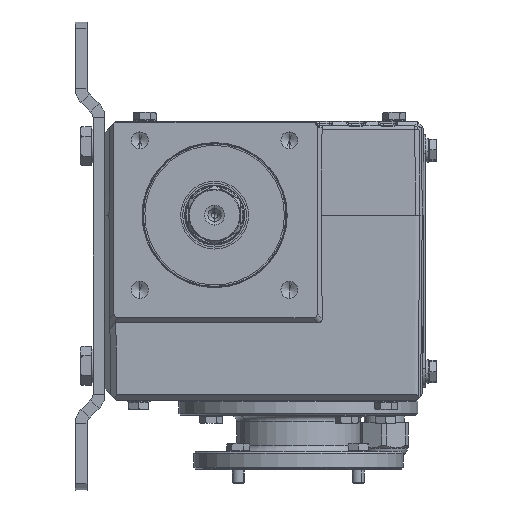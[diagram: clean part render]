
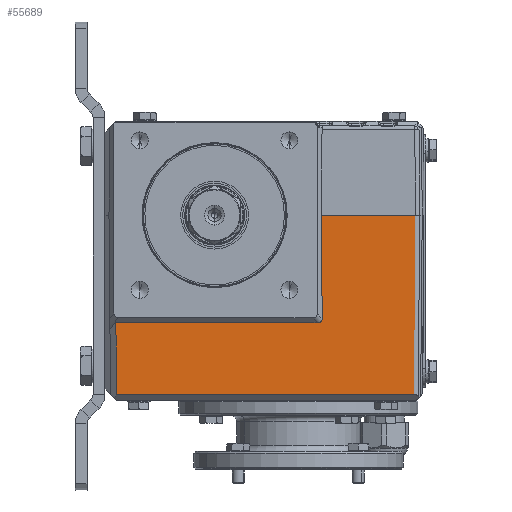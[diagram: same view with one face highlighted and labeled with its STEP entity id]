
A CAD part, left-side view. The second image highlights one B-rep face of the part: STEP entity #55689.
In plain terms, the highlighted planar face has unit normal (-1, 0, -0.009).
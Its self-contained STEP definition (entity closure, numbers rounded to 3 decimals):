
#8012 = CARTESIAN_POINT ( 'NONE',  ( -92.585, 49.585, -47.5 ) ) ;
#9933 = EDGE_CURVE ( 'NONE', #72315, #346232, #142248, .T. ) ;
#10548 = ORIENTED_EDGE ( 'NONE', *, *, #249685, .T. ) ;
#11396 = EDGE_CURVE ( 'NONE', #346232, #79300, #92783, .T. ) ;
#28666 = CARTESIAN_POINT ( 'NONE',  ( -92.529, -51.85, -53.971 ) ) ;
#29729 = ORIENTED_EDGE ( 'NONE', *, *, #9933, .F. ) ;
#43054 = CARTESIAN_POINT ( 'NONE',  ( -92.536, -53.964, -53.188 ) ) ;
#49453 = CARTESIAN_POINT ( 'NONE',  ( -92.548, -53.952, -51.831 ) ) ;
#53452 = DIRECTION ( 'NONE',  ( 0., -1., 0. ) ) ;
#54696 = VECTOR ( 'NONE', #539743, 1000. ) ;
#55689 = ADVANCED_FACE ( 'NONE', ( #387377 ), #243982, .T. ) ;
#72315 = VERTEX_POINT ( 'NONE', #271655 ) ;
#79300 = VERTEX_POINT ( 'NONE', #503002 ) ;
#81096 = CARTESIAN_POINT ( 'NONE',  ( -93., -53.5, 0. ) ) ;
#83416 = EDGE_LOOP ( 'NONE', ( #474675, #10548, #223886, #166687, #597191, #29729, #501779, #329488 ) ) ;
#86353 = DIRECTION ( 'NONE',  ( 0., -1., 0. ) ) ;
#87353 = CARTESIAN_POINT ( 'NONE',  ( -92.529, 49.529, -53.971 ) ) ;
#92783 = LINE ( 'NONE', #340395, #183362 ) ;
#96268 = LINE ( 'NONE', #8012, #532004 ) ;
#110469 = DIRECTION ( 'NONE',  ( -0.009, -0.009, 1. ) ) ;
#112990 = CARTESIAN_POINT ( 'NONE',  ( -92.215, 49.215, -90. ) ) ;
#124663 = VERTEX_POINT ( 'NONE', #251324 ) ;
#142248 = LINE ( 'NONE', #340941, #54696 ) ;
#146492 = AXIS2_PLACEMENT_3D ( 'NONE', #436282, #494802, #201562 ) ;
#158703 = EDGE_CURVE ( 'NONE', #79300, #124663, #220631, .T. ) ;
#160263 = DIRECTION ( 'NONE',  ( 0., -1., 0. ) ) ;
#165310 = CARTESIAN_POINT ( 'NONE',  ( -93., 53., 0. ) ) ;
#166687 = ORIENTED_EDGE ( 'NONE', *, *, #158703, .F. ) ;
#167664 = CARTESIAN_POINT ( 'NONE',  ( -92.215, -99.972, -90. ) ) ;
#175006 = VERTEX_POINT ( 'NONE', #87353 ) ;
#183362 = VECTOR ( 'NONE', #86353, 1000. ) ;
#201562 = DIRECTION ( 'NONE',  ( -0.009, 0., 1. ) ) ;
#220631 = LINE ( 'NONE', #165310, #352122 ) ;
#223886 = ORIENTED_EDGE ( 'NONE', *, *, #436775, .T. ) ;
#241181 = LINE ( 'NONE', #406997, #531528 ) ;
#243982 = PLANE ( 'NONE',  #146492 ) ;
#249685 = EDGE_CURVE ( 'NONE', #344892, #346009, #502453, .T. ) ;
#251324 = CARTESIAN_POINT ( 'NONE',  ( -93., -100.757, 0. ) ) ;
#271655 = CARTESIAN_POINT ( 'NONE',  ( -92.548, -53.952, -51.831 ) ) ;
#289003 = EDGE_CURVE ( 'NONE', #175006, #436821, #643405, .T. ) ;
#291793 = DIRECTION ( 'NONE',  ( 0.009, -0.009, -1. ) ) ;
#292474 = VECTOR ( 'NONE', #160263, 1000. ) ;
#329488 = ORIENTED_EDGE ( 'NONE', *, *, #289003, .F. ) ;
#340395 = CARTESIAN_POINT ( 'NONE',  ( -93., 53., 0. ) ) ;
#340941 = CARTESIAN_POINT ( 'NONE',  ( -93.008, -53.492, 0.929 ) ) ;
#344892 = VERTEX_POINT ( 'NONE', #112990 ) ;
#346009 = VERTEX_POINT ( 'NONE', #167664 ) ;
#346232 = VERTEX_POINT ( 'NONE', #81096 ) ;
#352122 = VECTOR ( 'NONE', #370437, 1000. ) ;
#352553 = CARTESIAN_POINT ( 'NONE',  ( -92.215, 53., -90. ) ) ;
#370437 = DIRECTION ( 'NONE',  ( 0., -1., 0. ) ) ;
#387377 = FACE_OUTER_BOUND ( 'NONE', #83416, .T. ) ;
#406997 = CARTESIAN_POINT ( 'NONE',  ( -93., -100.757, 0.011 ) ) ;
#424235 = EDGE_CURVE ( 'NONE', #72315, #436821, #540701, .T. ) ;
#436282 = CARTESIAN_POINT ( 'NONE',  ( -93., 53., 0. ) ) ;
#436775 = EDGE_CURVE ( 'NONE', #346009, #124663, #241181, .T. ) ;
#436821 = VERTEX_POINT ( 'NONE', #28666 ) ;
#438588 = EDGE_CURVE ( 'NONE', #175006, #344892, #96268, .T. ) ;
#460974 = VECTOR ( 'NONE', #53452, 1000. ) ;
#474675 = ORIENTED_EDGE ( 'NONE', *, *, #438588, .T. ) ;
#494802 = DIRECTION ( 'NONE',  ( -1., 0., -0.009 ) ) ;
#501779 = ORIENTED_EDGE ( 'NONE', *, *, #424235, .T. ) ;
#502453 = LINE ( 'NONE', #352553, #292474 ) ;
#503002 = CARTESIAN_POINT ( 'NONE',  ( -93., -100.756, 0. ) ) ;
#531528 = VECTOR ( 'NONE', #110469, 1000. ) ;
#532004 = VECTOR ( 'NONE', #291793, 1000. ) ;
#535177 = CARTESIAN_POINT ( 'NONE',  ( -92.529, -53.195, -53.971 ) ) ;
#539743 = DIRECTION ( 'NONE',  ( -0.009, 0.009, 1. ) ) ;
#540701 =( BOUNDED_CURVE ( )  B_SPLINE_CURVE ( 3, ( #49453, #43054, #535177, #642622 ),
 .UNSPECIFIED., .F., .F. ) 
 B_SPLINE_CURVE_WITH_KNOTS ( ( 4, 4 ),
 ( 2.61, 3.658 ),
 .UNSPECIFIED. ) 
 CURVE ( )  GEOMETRIC_REPRESENTATION_ITEM ( )  RATIONAL_B_SPLINE_CURVE ( ( 1., 0.911, 0.911, 1. ) ) 
 REPRESENTATION_ITEM ( '' )  );
#591356 = CARTESIAN_POINT ( 'NONE',  ( -92.529, 53., -53.971 ) ) ;
#597191 = ORIENTED_EDGE ( 'NONE', *, *, #11396, .F. ) ;
#642622 = CARTESIAN_POINT ( 'NONE',  ( -92.529, -51.85, -53.971 ) ) ;
#643405 = LINE ( 'NONE', #591356, #460974 ) ;
